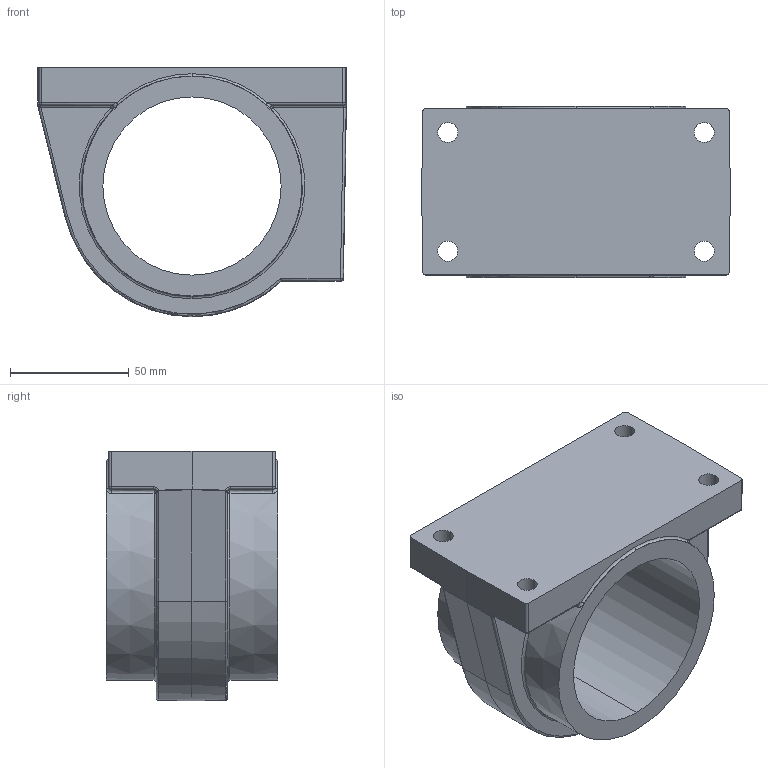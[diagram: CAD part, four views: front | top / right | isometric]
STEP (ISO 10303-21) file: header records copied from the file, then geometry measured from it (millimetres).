
FILE_DESCRIPTION (( 'STEP AP203' ), '1' );
FILE_NAME ('KGG65-50.step', '2020-03-10T15:20:51', ( '' ), ( '' ), 'SwSTEP 2.0', 'SolidWorks 2019', '' );
FILE_SCHEMA (( 'CONFIG_CONTROL_DESIGN' ));
Length unit declared in the file: millimetre
Products named in the file (2): KGG65-50
Bounding box: 129.98 x 72 x 105 mm (x, y, z)
Volume: 372318.1 mm3; surface area: 63091 mm2
Topology: 1 solids, 1 shells, 122 faces, 291 edges, 165 vertices
Faces by surface type: cylinder 44, plane 33, bspline 16, sphere 12, torus 10, cone 7
Entity records: 4121 total; most frequent: CARTESIAN_POINT 1248, DIRECTION 592, ORIENTED_EDGE 570, EDGE_CURVE 285, AXIS2_PLACEMENT_3D 245, VERTEX_POINT 165, CIRCLE 137, EDGE_LOOP 132
